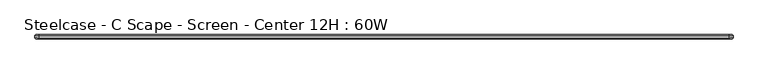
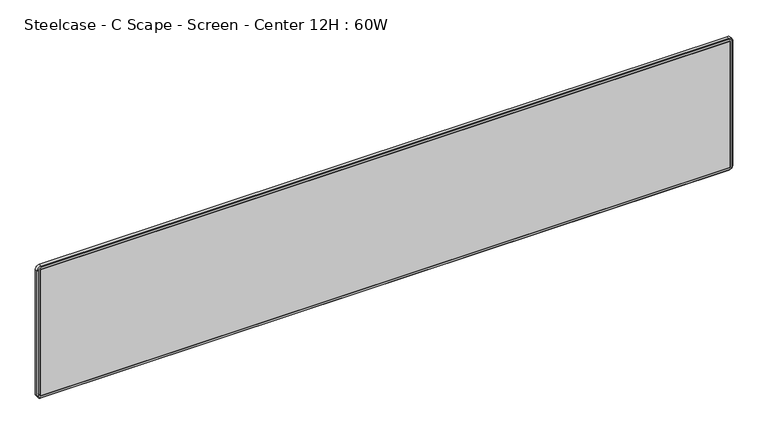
"""IFC4 building model written with IfcOpenShell, lengths in millimetres: furniture geometry, Steelcase - C Scape - Screen - Center 12H : 60W."""

import ifcopenshell
import ifcopenshell.guid

model = None  # the IFC model being written
_history = None  # IfcOwnerHistory: only IFC2X3 demands one
_inside = {}  # id of a spatial element -> (the spatial element, [elements in it])
_under = {}  # id of a project, library or spatial element -> (it, [spatial elements below it])
_declared = {}  # id of a project -> (the project, [libraries it declares])
_typed = {}  # id of a type object -> (the type object, [elements of that type])
_made_of = {}  # id of a material, layer set ... -> (it, [elements and type objects made of it])


def new_model(schema):
    """Start an empty IFC model of exactly this schema.

    Asked for "IFC4X3", IfcOpenShell would pick the latest addendum, in which some entities
    have other attributes; the version numbers below select the first issue.
    IFC2X3 requires an IfcOwnerHistory on every rooted entity: one is made here for all.
    """
    global model, _history
    if schema == "IFC4X3":
        model = ifcopenshell.file(schema_version=(4, 3, 0, 0))
    else:
        model = ifcopenshell.file(schema=schema)
    _inside.clear()
    _under.clear()
    _declared.clear()
    _typed.clear()
    _made_of.clear()
    _history = None
    if model.schema == "IFC2X3":
        org = make("IfcOrganization", Name="unknown")
        user = make(
            "IfcPersonAndOrganization",
            ThePerson=make("IfcPerson", FamilyName="unknown"),
            TheOrganization=org,
        )
        app = make(
            "IfcApplication",
            ApplicationDeveloper=org,
            Version="unknown",
            ApplicationFullName="unknown",
            ApplicationIdentifier="unknown",
        )
        _history = make(
            "IfcOwnerHistory",
            OwningUser=user,
            OwningApplication=app,
            ChangeAction="ADDED",
            CreationDate=0,
        )
    return model


def make(cls, **values):
    """One entity of the class cls with the attributes given. An attribute that is None is left unset."""
    return model.create_entity(
        cls, **{name: value for name, value in values.items() if value is not None}
    )


def rooted(cls, **values):
    """An entity with a GlobalId (a new one), such as an element, a storey or a relation."""
    return make(cls, GlobalId=ifcopenshell.guid.new(), OwnerHistory=_history, **values)


def si_unit(unit_type, name, prefix=None):
    """IfcSIUnit, for example si_unit("LENGTHUNIT", "METRE", prefix="MILLI")."""
    return make("IfcSIUnit", UnitType=unit_type, Prefix=prefix, Name=name)


def assignment(units):
    """IfcUnitAssignment: the units of a project."""
    return None if units is None else make("IfcUnitAssignment", Units=units)


def point(xyz):
    """IfcCartesianPoint."""
    return None if xyz is None else make("IfcCartesianPoint", Coordinates=xyz)


def direction(xyz):
    """IfcDirection."""
    return None if xyz is None else make("IfcDirection", DirectionRatios=xyz)


def frame(location, z_axis=None, x_axis=None):
    """IfcAxis2Placement3D, a coordinate frame: its origin and axes. An axis left out is left unset."""
    return make(
        "IfcAxis2Placement3D",
        Location=point(location),
        Axis=direction(z_axis),
        RefDirection=direction(x_axis),
    )


def origin():
    """The frame at (0, 0, 0) with its axes left unset."""
    return frame((0.0, 0.0, 0.0))


def place(relative_to, where):
    """IfcLocalPlacement: puts the frame where relative to a parent placement (None: the world)."""
    return make(
        "IfcLocalPlacement", PlacementRelTo=relative_to, RelativePlacement=where
    )


def context(
    kind, dimensions, precision=None, world=None, true_north=None, identifier=None
):
    """IfcGeometricRepresentationContext, for example the 3D "Model" context."""
    return make(
        "IfcGeometricRepresentationContext",
        ContextIdentifier=identifier,
        ContextType=kind,
        CoordinateSpaceDimension=dimensions,
        Precision=precision,
        WorldCoordinateSystem=world,
        TrueNorth=true_north,
    )


def project(units=None, contexts=None):
    """IfcProject with its units and contexts."""
    return rooted(
        "IfcProject",
        Name="project",
        RepresentationContexts=contexts,
        UnitsInContext=assignment(units),
    )


def spatial(cls, under=None, at=None, **own):
    """A site, building, storey or space (cls), placed at a placement, below another one or the project."""
    s = rooted(cls, ObjectPlacement=at, **own)
    if under is not None:
        _under.setdefault(under.id(), (under, []))[1].append(s)
    return s


def polyline(points):
    """IfcPolyline through the points."""
    return make("IfcPolyline", Points=[point(p) for p in points])


def circle_curve(where, radius):
    """IfcCircle in the frame where."""
    return make("IfcCircle", Position=where, Radius=radius)


def outline(outer, holes=None, kind="AREA"):
    """IfcArbitraryClosedProfileDef: a profile drawn as a closed curve; with holes, ...WithVoids."""
    if holes is None:
        return make("IfcArbitraryClosedProfileDef", ProfileType=kind, OuterCurve=outer)
    return make(
        "IfcArbitraryProfileDefWithVoids",
        ProfileType=kind,
        OuterCurve=outer,
        InnerCurves=holes,
    )


def extrude(swept, where, along, depth):
    """IfcExtrudedAreaSolid: the profile swept, set in the frame where, extruded along a direction by depth."""
    return make(
        "IfcExtrudedAreaSolid",
        SweptArea=swept,
        Position=where,
        ExtrudedDirection=direction(along),
        Depth=depth,
    )


def shape(context_of_items, identifier, shape_type, items):
    """IfcShapeRepresentation: the items that make up one representation, for example the "Body"."""
    return make(
        "IfcShapeRepresentation",
        ContextOfItems=context_of_items,
        RepresentationIdentifier=identifier,
        RepresentationType=shape_type,
        Items=items,
    )


def source(mapping_origin, context_of_items, identifier, shape_type, items):
    """IfcRepresentationMap: a shape defined once, which mapped items show again and again."""
    return make(
        "IfcRepresentationMap",
        MappingOrigin=mapping_origin,
        MappedRepresentation=shape(context_of_items, identifier, shape_type, items),
    )


def transform(
    local_origin,
    x_axis=None,
    y_axis=None,
    z_axis=None,
    scale=None,
    scale2=None,
    scale3=None,
    uniform=True,
):
    """IfcCartesianTransformationOperator3D, or its non-uniform kind. x_axis, y_axis, z_axis: its Axis1, 2, 3."""
    if uniform:
        return make(
            "IfcCartesianTransformationOperator3D",
            Axis1=direction(x_axis),
            Axis2=direction(y_axis),
            LocalOrigin=point(local_origin),
            Scale=scale,
            Axis3=direction(z_axis),
        )
    return make(
        "IfcCartesianTransformationOperator3DnonUniform",
        Axis1=direction(x_axis),
        Axis2=direction(y_axis),
        LocalOrigin=point(local_origin),
        Scale=scale,
        Axis3=direction(z_axis),
        Scale2=scale2,
        Scale3=scale3,
    )


def mapped(mapping_source, mapping_target):
    """IfcMappedItem: shows the shape of a source again, moved by a transform."""
    return make(
        "IfcMappedItem", MappingSource=mapping_source, MappingTarget=mapping_target
    )


def made_of(thing, what):
    """Note that an element or type object is made of a material, layer set ...; save() writes the relation."""
    if what is not None:
        _made_of.setdefault(what.id(), (what, []))[1].append(thing)
    return thing


def element(
    cls,
    number,
    at=None,
    inside=None,
    cuts=None,
    type_object=None,
    material=None,
    context=None,
    identifier="Body",
    shape_type=None,
    held_by="IfcProductDefinitionShape",
    body=None,
    shapes=None,
    **own,
):
    """One element of the class cls, such as IfcWall. Its Tag is "e" and its number.

    at: its placement. inside: the storey or other place that contains it. cuts: it is an
    opening in that element (IfcRelVoidsElement). A single representation is given by context,
    identifier, shape_type and body (its items); several are given by shapes. held_by: the class
    of the entity that holds the representations. save() writes the other relations.
    """
    e = rooted(cls, Tag="e%d" % number, ObjectPlacement=at, **own)
    if body is not None:
        shapes = [shape(context, identifier, shape_type, body)]
    if shapes is not None:
        e.Representation = make(held_by, Representations=shapes)
    if inside is not None:
        _inside.setdefault(inside.id(), (inside, []))[1].append(e)
    if cuts is not None:
        rooted(
            "IfcRelVoidsElement", RelatingBuildingElement=cuts, RelatedOpeningElement=e
        )
    if type_object is not None:
        _typed.setdefault(type_object.id(), (type_object, []))[1].append(e)
    return made_of(e, material)


def aggregate(whole, parts):
    """IfcRelAggregates: a whole, such as a stair, and the parts it consists of."""
    return rooted("IfcRelAggregates", RelatingObject=whole, RelatedObjects=parts)


def save(model, path):
    """Write the relations noted so far, then the file.

    IfcRelAggregates (storeys below a building ...), IfcRelContainedInSpatialStructure (elements
    in a storey), IfcRelDefinesByType, IfcRelAssociatesMaterial and IfcRelDeclares: one each for
    every whole, place, type object, material and project.
    """
    for whole, parts in _under.values():
        aggregate(whole, parts)
    for where, things in _inside.values():
        rooted(
            "IfcRelContainedInSpatialStructure",
            RelatedElements=things,
            RelatingStructure=where,
        )
    for kind, things in _typed.values():
        rooted("IfcRelDefinesByType", RelatedObjects=things, RelatingType=kind)
    for what, things in _made_of.values():
        rooted("IfcRelAssociatesMaterial", RelatedObjects=things, RelatingMaterial=what)
    for by, libraries in _declared.values():
        rooted("IfcRelDeclares", RelatingContext=by, RelatedDefinitions=libraries)
    model.write(path)


def plane_surface(at):
    """IfcPlane: the flat surface through the origin of the frame at, square to its z axis."""
    return make("IfcPlane", Position=at)


def cylinder_surface(at, radius):
    """IfcCylindricalSurface: all points at the distance radius from the z axis of the frame at."""
    return make("IfcCylindricalSurface", Position=at, Radius=radius)


def revolved_surface(curve, axis_point, axis_direction):
    """IfcSurfaceOfRevolution: the curve turned about the line through axis_point along axis_direction."""
    return make(
        "IfcSurfaceOfRevolution",
        SweptCurve=make("IfcArbitraryOpenProfileDef", ProfileType="CURVE", Curve=curve),
        AxisPosition=make("IfcAxis1Placement", Location=point(axis_point), Axis=direction(axis_direction)),
    )


def advanced_brep(points, edges, surfaces, faces):
    """IfcAdvancedBrep: a solid bounded by faces that lie on surfaces and meet in shared edges.

    An edge is (start, end): straight between two places in points (the first is 0);
    or (start, end, curve); or (start, end, curve, False) where it runs against its curve.
    A face is (place in surfaces, loops), or (place, loops, False) where it looks against
    its surface's normal. A loop lists edges by number (the first is 1), with a minus sign
    where the edge is run from its end to its start. The first loop is the outer one.
    """
    corners = [point(p) for p in points]
    vertices = [make("IfcVertexPoint", VertexGeometry=c) for c in corners]
    made = []
    for start, end, *more in edges:
        made.append(
            make(
                "IfcEdgeCurve",
                EdgeStart=vertices[start],
                EdgeEnd=vertices[end],
                EdgeGeometry=more[0] if more else make("IfcPolyline", Points=[corners[start], corners[end]]),
                SameSense=more[1] if len(more) > 1 else True,
            )
        )
    hull = []
    for where, loops, *sense in faces:
        bounds = []
        for j, loop in enumerate(loops):
            ring = [make("IfcOrientedEdge", EdgeElement=made[abs(k) - 1], Orientation=k > 0) for k in loop]
            bounds.append(
                make(
                    "IfcFaceOuterBound" if j == 0 else "IfcFaceBound",
                    Bound=make("IfcEdgeLoop", EdgeList=ring),
                    Orientation=True,
                )
            )
        hull.append(make("IfcAdvancedFace", Bounds=bounds, FaceSurface=surfaces[where], SameSense=sense[0] if sense else True))
    return make("IfcAdvancedBrep", Outer=make("IfcClosedShell", CfsFaces=hull))


def steelcase_c_scape_screen_center_12h_60w_d1ae540f(model_context):
    return source(origin(), model_context, "Body", "SolidModel", [
        advanced_brep(
        [(6.3501994, -7.9375, 975.2694951), (8.21859, -7.9375, 977.1378857), (8.21859, -17.4625, 977.1378857), (6.3501994, -17.4625, 975.2694951), (0.0002237, -9.6896209, 975.2694951), (8.21859, -9.6896209, 983.4878614), (8.21859, -7.9375, 981.7357406), (1.7523445, -7.9375, 975.2694951), (0.0002237, -15.7098203, 975.2694951), (8.21859, -15.7098203, 983.4878614), (1.7529034, -17.4625, 975.2694951), (8.21859, -17.4625, 981.7351817), (6.3501994, -17.4625, 686.9063005), (6.3501994, -7.9375, 686.9063005), (1.7523445, -7.9375, 686.9063005), (0.0002237, -9.6896209, 686.9063005), (0.0002237, -15.7098203, 686.9063005), (1.7529034, -17.4625, 686.9063005), (8.21859, -7.9375, 685.0379099), (8.21859, -17.4625, 685.0379099), (8.21859, -9.6896209, 678.6879341), (8.21859, -7.9375, 680.440055), (8.21859, -15.7098203, 678.6879341), (8.21859, -17.4625, 680.4406139), (1512.606615, -17.4625, 685.0379099), (1512.606615, -7.9375, 685.0379099), (1512.606615, -7.9375, 680.440055), (1512.606615, -9.6896209, 678.6879341), (1512.606615, -15.7098203, 678.6879341), (1512.606615, -17.4625, 680.4406139), (1514.4750056, -7.9375, 686.9063005), (1514.4750056, -17.4625, 686.9063005), (1520.8249814, -9.6896209, 686.9063005), (1519.0728605, -7.9375, 686.9063005), (1520.8249814, -15.7098203, 686.9063005), (1519.0723017, -17.4625, 686.9063005), (1514.4750056, -17.4625, 975.2694951), (1514.4750056, -7.9375, 975.2694951), (1519.0728605, -7.9375, 975.2694951), (1520.8249814, -9.6896209, 975.2694951), (1520.8249814, -15.7098203, 975.2694951), (1519.0723017, -17.4625, 975.2694951), (1512.606615, -7.9375, 977.1378857), (1512.606615, -17.4625, 977.1378857), (1512.606615, -7.9375, 981.7357406), (1512.606615, -9.6896209, 983.4878614), (1512.606615, -15.7098203, 983.4878614), (1512.606615, -17.4625, 981.7351817)],
        [
            (0, 1, circle_curve(frame((8.21859, -7.9375, 975.2694951), z_axis=(0.0, 1.0, 0.0), x_axis=(0.0, 0.0, 1.0)), 1.8683906)),
            (1, 2),
            (2, 3, circle_curve(frame((8.21859, -17.4625, 975.2694951), z_axis=(0.0, -1.0, 0.0), x_axis=(0.0, 0.0, 1.0)), 1.8683906)),
            (3, 0),
            (4, 5, circle_curve(frame((8.21859, -9.6896209, 975.2694951), z_axis=(0.0, 1.0, 0.0), x_axis=(0.0, 0.0, 1.0)), 8.2183664)),
            (5, 6),
            (6, 7, circle_curve(frame((8.21859, -7.9375, 975.2694951), z_axis=(0.0, -1.0, 0.0), x_axis=(0.0, 0.0, 1.0)), 6.4662455)),
            (7, 4),
            (8, 9, circle_curve(frame((8.21859, -15.7098203, 975.2694951), z_axis=(0.0, 1.0, 0.0), x_axis=(0.0, 0.0, 1.0)), 8.2183664)),
            (9, 5),
            (4, 8),
            (10, 11, circle_curve(frame((8.21859, -17.4625, 975.2694951), z_axis=(0.0, 1.0, 0.0), x_axis=(0.0, 0.0, 1.0)), 6.4656866)),
            (11, 9),
            (8, 10),
            (3, 12),
            (12, 13),
            (13, 0),
            (7, 14),
            (14, 15),
            (15, 4),
            (15, 16),
            (16, 8),
            (16, 17),
            (17, 10),
            (18, 13, circle_curve(frame((8.21859, -7.9375, 686.9063005), z_axis=(0.0, 1.0, 0.0), x_axis=(-1.0, 0.0, 0.0)), 1.8683906)),
            (12, 19, circle_curve(frame((8.21859, -17.4625, 686.9063005), z_axis=(0.0, -1.0, 0.0), x_axis=(-1.0, 0.0, 0.0)), 1.8683906)),
            (19, 18),
            (20, 15, circle_curve(frame((8.21859, -9.6896209, 686.9063005), z_axis=(0.0, 1.0, 0.0), x_axis=(-1.0, 0.0, 0.0)), 8.2183664)),
            (14, 21, circle_curve(frame((8.21859, -7.9375, 686.9063005), z_axis=(0.0, -1.0, 0.0), x_axis=(-1.0, 0.0, 0.0)), 6.4662455)),
            (21, 20),
            (22, 16, circle_curve(frame((8.21859, -15.7098203, 686.9063005), z_axis=(0.0, 1.0, 0.0), x_axis=(-1.0, 0.0, 0.0)), 8.2183664)),
            (20, 22),
            (23, 17, circle_curve(frame((8.21859, -17.4625, 686.9063005), z_axis=(0.0, 1.0, 0.0), x_axis=(-1.0, 0.0, 0.0)), 6.4656866)),
            (22, 23),
            (19, 24),
            (24, 25),
            (25, 18),
            (21, 26),
            (26, 27),
            (27, 20),
            (27, 28),
            (28, 22),
            (28, 29),
            (29, 23),
            (30, 25, circle_curve(frame((1512.606615, -7.9375, 686.9063005), z_axis=(0.0, 1.0, 0.0), x_axis=(0.0, 0.0, -1.0)), 1.8683906)),
            (24, 31, circle_curve(frame((1512.606615, -17.4625, 686.9063005), z_axis=(0.0, -1.0, 0.0), x_axis=(0.0, 0.0, -1.0)), 1.8683906)),
            (31, 30),
            (32, 27, circle_curve(frame((1512.606615, -9.6896209, 686.9063005), z_axis=(0.0, 1.0, 0.0), x_axis=(0.0, 0.0, -1.0)), 8.2183664)),
            (26, 33, circle_curve(frame((1512.606615, -7.9375, 686.9063005), z_axis=(0.0, -1.0, 0.0), x_axis=(0.0, 0.0, -1.0)), 6.4662455)),
            (33, 32),
            (34, 28, circle_curve(frame((1512.606615, -15.7098203, 686.9063005), z_axis=(0.0, 1.0, 0.0), x_axis=(0.0, 0.0, -1.0)), 8.2183664)),
            (32, 34),
            (35, 29, circle_curve(frame((1512.606615, -17.4625, 686.9063005), z_axis=(0.0, 1.0, 0.0), x_axis=(0.0, 0.0, -1.0)), 6.4656866)),
            (34, 35),
            (31, 36),
            (36, 37),
            (37, 30),
            (33, 38),
            (38, 39),
            (39, 32),
            (39, 40),
            (40, 34),
            (40, 41),
            (41, 35),
            (42, 37, circle_curve(frame((1512.606615, -7.9375, 975.2694951), z_axis=(0.0, 1.0, 0.0), x_axis=(1.0, 0.0, 0.0)), 1.8683906)),
            (36, 43, circle_curve(frame((1512.606615, -17.4625, 975.2694951), z_axis=(0.0, -1.0, 0.0), x_axis=(1.0, 0.0, 0.0)), 1.8683906)),
            (43, 42),
            (44, 38, circle_curve(frame((1512.606615, -7.9375, 975.2694951), z_axis=(0.0, 1.0, 0.0), x_axis=(1.0, 0.0, 0.0)), 6.4662455)),
            (6, 44),
            (42, 1),
            (45, 39, circle_curve(frame((1512.606615, -9.6896209, 975.2694951), z_axis=(0.0, 1.0, 0.0), x_axis=(1.0, 0.0, 0.0)), 8.2183664)),
            (44, 45),
            (46, 40, circle_curve(frame((1512.606615, -15.7098203, 975.2694951), z_axis=(0.0, 1.0, 0.0), x_axis=(1.0, 0.0, 0.0)), 8.2183664)),
            (45, 46),
            (47, 41, circle_curve(frame((1512.606615, -17.4625, 975.2694951), z_axis=(0.0, 1.0, 0.0), x_axis=(1.0, 0.0, 0.0)), 6.4656866)),
            (46, 47),
            (47, 11),
            (2, 43),
            (5, 45),
            (9, 46),
        ],
        [
            revolved_surface(polyline([(8.21859, -17.4625, 977.1378857), (8.21859, -7.9375, 977.1378857)]), (8.21859, -7.9375, 975.2694951), (0.0, -1.0, 0.0)),
            revolved_surface(polyline([(8.21859, -7.9375, 981.7357406), (8.21859, -9.6896209, 983.4878614)]), (8.21859, -7.9375, 975.2694951), (0.0, -1.0, 0.0)),
            cylinder_surface(frame((8.21859, -7.9375, 975.2694951), z_axis=(0.0, -1.0, 0.0), x_axis=(0.0, 0.0, 1.0)), 8.2183664),
            revolved_surface(polyline([(8.21859, -15.7098203, 983.4878614), (8.21859, -17.4625, 981.7351817)]), (8.21859, -7.9375, 975.2694951), (0.0, -1.0, 0.0)),
            plane_surface(frame((6.3501994, -17.4625, 975.2694951), z_axis=(1.0, 0.0, 0.0), x_axis=(0.0, 0.0, -1.0))),
            plane_surface(frame((1.7523445, -7.9375, 975.2694951), z_axis=(-0.7071067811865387, 0.7071067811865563, 0.0), x_axis=(0.0, 0.0, -1.0))),
            plane_surface(frame((0.0002237, -9.6896209, 975.2694951), z_axis=(-1.0, 0.0, 0.0), x_axis=(0.0, 0.0, -1.0))),
            plane_surface(frame((0.0002237, -15.7098203, 975.2694951), z_axis=(-0.7071067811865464, -0.7071067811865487, 0.0), x_axis=(0.0, 0.0, -1.0))),
            revolved_surface(polyline([(6.350199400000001, -17.4625, 686.9063005), (6.350199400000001, -7.9375, 686.9063005)]), (8.21859, -7.9375, 686.9063005), (0.0, -1.0, 0.0)),
            revolved_surface(polyline([(1.7523445, -7.9375, 686.9063005), (0.0002237, -9.6896209, 686.9063005)]), (8.21859, -7.9375, 686.9063005), (0.0, -1.0, 0.0)),
            cylinder_surface(frame((8.21859, -7.9375, 686.9063005), z_axis=(0.0, -1.0, 0.0), x_axis=(-1.0, 0.0, 0.0)), 8.2183664),
            revolved_surface(polyline([(0.0002237, -15.7098203, 686.9063005), (1.7529034, -17.4625, 686.9063005)]), (8.21859, -7.9375, 686.9063005), (0.0, -1.0, 0.0)),
            plane_surface(frame((8.21859, -17.4625, 685.0379099), z_axis=(0.0, 0.0, 1.0), x_axis=(1.0, 0.0, 0.0))),
            plane_surface(frame((8.21859, -7.9375, 680.440055), z_axis=(0.0, 0.7071067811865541, -0.7071067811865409), x_axis=(1.0, 0.0, 0.0))),
            plane_surface(frame((8.21859, -9.6896209, 678.6879341), z_axis=(0.0, 0.0, -1.0), x_axis=(1.0, 0.0, 0.0))),
            plane_surface(frame((8.21859, -15.7098203, 678.6879341), z_axis=(0.0, -0.7071067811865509, -0.7071067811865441), x_axis=(1.0, 0.0, 0.0))),
            revolved_surface(polyline([(1512.606615, -17.4625, 685.0379099), (1512.606615, -7.9375, 685.0379099)]), (1512.606615, -7.9375, 686.9063005), (0.0, -1.0, 0.0)),
            revolved_surface(polyline([(1512.606615, -7.9375, 680.440055), (1512.606615, -9.6896209, 678.6879341)]), (1512.606615, -7.9375, 686.9063005), (0.0, -1.0, 0.0)),
            cylinder_surface(frame((1512.606615, -7.9375, 686.9063005), z_axis=(0.0, -1.0, 0.0), x_axis=(0.0, 0.0, -1.0)), 8.2183664),
            revolved_surface(polyline([(1512.606615, -15.7098203, 678.6879341), (1512.606615, -17.4625, 680.4406139)]), (1512.606615, -7.9375, 686.9063005), (0.0, -1.0, 0.0)),
            plane_surface(frame((1514.4750056, -17.4625, 686.9063005), z_axis=(-1.0, 0.0, 0.0), x_axis=(0.0, 0.0, 1.0))),
            plane_surface(frame((1519.0728605, -7.9375, 686.9063005), z_axis=(0.7071067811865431, 0.7071067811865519, 0.0), x_axis=(0.0, 0.0, 1.0))),
            plane_surface(frame((1520.8249814, -9.6896209, 686.9063005), z_axis=(1.0, 0.0, 0.0), x_axis=(0.0, 0.0, 1.0))),
            plane_surface(frame((1520.8249814, -15.7098203, 686.9063005), z_axis=(0.7071067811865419, -0.7071067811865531, 0.0), x_axis=(0.0, 0.0, 1.0))),
            revolved_surface(polyline([(1514.4750056, -17.4625, 975.2694951), (1514.4750056, -7.9375, 975.2694951)]), (1512.606615, -7.9375, 975.2694951), (0.0, -1.0, 0.0)),
            plane_surface(frame((1512.606615, -7.9375, 975.2694951), z_axis=(0.0, 1.0, 0.0), x_axis=(1.0, 0.0, 0.0))),
            revolved_surface(polyline([(1519.0728605, -7.9375, 975.2694951), (1520.8249814, -9.6896209, 975.2694951)]), (1512.606615, -7.9375, 975.2694951), (0.0, -1.0, 0.0)),
            cylinder_surface(frame((1512.606615, -7.9375, 975.2694951), z_axis=(0.0, -1.0, 0.0), x_axis=(1.0, 0.0, 0.0)), 8.2183664),
            revolved_surface(polyline([(1520.8249814, -15.7098203, 975.2694951), (1519.0723017, -17.4625, 975.2694951)]), (1512.606615, -7.9375, 975.2694951), (0.0, -1.0, 0.0)),
            plane_surface(frame((1512.606615, -17.4625, 975.2694951), z_axis=(0.0, -1.0, 0.0), x_axis=(1.0, 0.0, 0.0))),
            plane_surface(frame((1512.606615, -17.4625, 977.1378857), z_axis=(0.0, 0.0, -1.0), x_axis=(-1.0, 0.0, 0.0))),
            plane_surface(frame((1512.606615, -7.9375, 981.7357406), z_axis=(0.0, 0.7071067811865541, 0.7071067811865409), x_axis=(-1.0, 0.0, 0.0))),
            plane_surface(frame((1512.606615, -9.6896209, 983.4878614), z_axis=(0.0, 0.0, 1.0), x_axis=(-1.0, 0.0, 0.0))),
            plane_surface(frame((1512.606615, -15.7098203, 983.4878614), z_axis=(0.0, -0.7071067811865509, 0.7071067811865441), x_axis=(-1.0, 0.0, 0.0))),
        ],
        [
            (0, [[1, 2, 3, 4]]),
            (1, [[5, 6, 7, 8]]),
            (2, [[9, 10, -5, 11]]),
            (3, [[12, 13, -9, 14]]),
            (4, [[-4, 15, 16, 17]]),
            (5, [[-8, 18, 19, 20]]),
            (6, [[-11, -20, 21, 22]]),
            (7, [[-14, -22, 23, 24]]),
            (8, [[25, -16, 26, 27]]),
            (9, [[28, -19, 29, 30]]),
            (10, [[31, -21, -28, 32]]),
            (11, [[33, -23, -31, 34]]),
            (12, [[-27, 35, 36, 37]]),
            (13, [[-30, 38, 39, 40]]),
            (14, [[-32, -40, 41, 42]]),
            (15, [[-34, -42, 43, 44]]),
            (16, [[45, -36, 46, 47]]),
            (17, [[48, -39, 49, 50]]),
            (18, [[51, -41, -48, 52]]),
            (19, [[53, -43, -51, 54]]),
            (20, [[-47, 55, 56, 57]]),
            (21, [[-50, 58, 59, 60]]),
            (22, [[-52, -60, 61, 62]]),
            (23, [[-54, -62, 63, 64]]),
            (24, [[65, -56, 66, 67]]),
            (25, [[68, -58, -49, -38, -29, -18, -7, 69], [-37, -45, -57, -65, 70, -1, -17, -25]]),
            (26, [[71, -59, -68, 72]]),
            (27, [[73, -61, -71, 74]]),
            (28, [[75, -63, -73, 76]]),
            (29, [[-44, -53, -64, -75, 77, -12, -24, -33], [-66, -55, -46, -35, -26, -15, -3, 78]]),
            (30, [[-67, -78, -2, -70]]),
            (31, [[-72, -69, -6, 79]]),
            (32, [[-74, -79, -10, 80]]),
            (33, [[-76, -80, -13, -77]]),
        ],
    ),
        extrude(outline(polyline([(1514.4750056, -7.9375), (1514.4750056, -17.4625), (6.3501994, -17.4625), (6.3501994, -7.9375), (1514.4750056, -7.9375)])), frame((0.0, 0.0, 685.0379099), z_axis=(0.0, 0.0, 1.0), x_axis=(1.0, 0.0, 0.0)), (0.0, 0.0, 1.0), 292.0999758),
    ])


if __name__ == "__main__":
    model = new_model("IFC4")
    model_context = context("Model", 3, world=origin())
    ifc_project = project(units=[si_unit("LENGTHUNIT", "METRE", prefix="MILLI")], contexts=[model_context])
    site = spatial("IfcSite", under=ifc_project)
    building = spatial("IfcBuilding", under=site)
    placement = place(None, origin())
    steelcase_c_scape_screen_center_12h_60w_shape = steelcase_c_scape_screen_center_12h_60w_d1ae540f(model_context)
    element("IfcFurniture", 1, ObjectType="Steelcase - C Scape - Screen - Center 12H : 60W", at=placement, inside=building, context=model_context, shape_type="MappedRepresentation", body=[
        mapped(steelcase_c_scape_screen_center_12h_60w_shape, transform((0.0, 0.0, 0.0), x_axis=(1.0, 0.0, 0.0), y_axis=(0.0, 1.0, 0.0), z_axis=(0.0, 0.0, 1.0))),
    ])
    save(model, "model.ifc")
